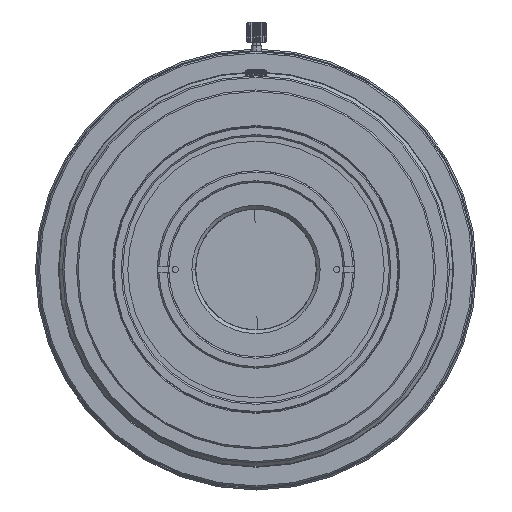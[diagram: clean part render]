
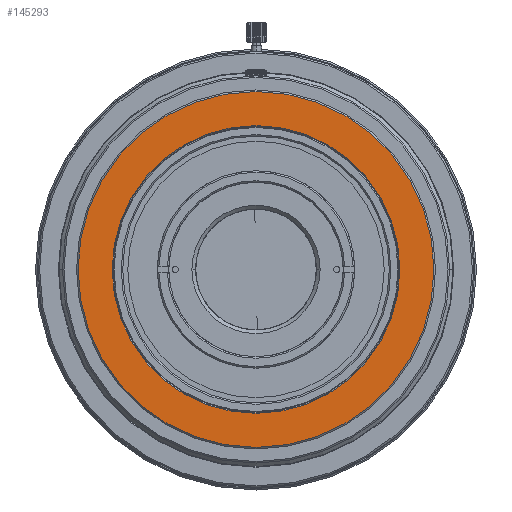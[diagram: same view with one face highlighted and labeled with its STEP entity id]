
A CAD part, front view. The second image highlights one B-rep face of the part: STEP entity #145293.
In plain terms, the highlighted planar face has unit normal (0, -1, 0).
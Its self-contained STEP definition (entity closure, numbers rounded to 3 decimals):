
#17492 = CARTESIAN_POINT ( 'NONE',  ( 34.7, -12.876, 0. ) ) ;
#20204 = EDGE_CURVE ( 'NONE', #72243, #93024, #22006, .T. ) ;
#20687 = VERTEX_POINT ( 'NONE', #128194 ) ;
#22006 = CIRCLE ( 'NONE', #94779, 34.7 ) ;
#23019 = AXIS2_PLACEMENT_3D ( 'NONE', #77099, #44992, #170450 ) ;
#25635 = DIRECTION ( 'NONE',  ( 1., 0., 0. ) ) ;
#30205 = CARTESIAN_POINT ( 'NONE',  ( 0., -12.876, -35. ) ) ;
#30451 = ORIENTED_EDGE ( 'NONE', *, *, #104692, .T. ) ;
#32192 = CARTESIAN_POINT ( 'NONE',  ( 0., -12.876, 0. ) ) ;
#36591 = EDGE_CURVE ( 'NONE', #93024, #72243, #125585, .T. ) ;
#41631 = FACE_OUTER_BOUND ( 'NONE', #92322, .T. ) ;
#43693 = DIRECTION ( 'NONE',  ( 1., 0., 0. ) ) ;
#44992 = DIRECTION ( 'NONE',  ( 0., -1., 0. ) ) ;
#50840 = AXIS2_PLACEMENT_3D ( 'NONE', #30205, #138013, #43693 ) ;
#57384 = DIRECTION ( 'NONE',  ( 1., 0., 0. ) ) ;
#60559 = ORIENTED_EDGE ( 'NONE', *, *, #20204, .T. ) ;
#72243 = VERTEX_POINT ( 'NONE', #157812 ) ;
#73284 = CARTESIAN_POINT ( 'NONE',  ( 0., -12.876, 0. ) ) ;
#77099 = CARTESIAN_POINT ( 'NONE',  ( 0., -12.876, 0. ) ) ;
#85282 = VERTEX_POINT ( 'NONE', #178314 ) ;
#92322 = EDGE_LOOP ( 'NONE', ( #104383, #60559 ) ) ;
#93024 = VERTEX_POINT ( 'NONE', #17492 ) ;
#94779 = AXIS2_PLACEMENT_3D ( 'NONE', #32192, #189799, #126547 ) ;
#101087 = CIRCLE ( 'NONE', #107771, 28.05 ) ;
#102007 = EDGE_CURVE ( 'NONE', #85282, #20687, #101087, .T. ) ;
#104383 = ORIENTED_EDGE ( 'NONE', *, *, #36591, .T. ) ;
#104692 = EDGE_CURVE ( 'NONE', #20687, #85282, #153812, .T. ) ;
#107771 = AXIS2_PLACEMENT_3D ( 'NONE', #73284, #196748, #25635 ) ;
#125585 = CIRCLE ( 'NONE', #23019, 34.7 ) ;
#126547 = DIRECTION ( 'NONE',  ( 1., 0., 0. ) ) ;
#128194 = CARTESIAN_POINT ( 'NONE',  ( 28.05, -12.876, 0. ) ) ;
#136174 = CARTESIAN_POINT ( 'NONE',  ( 0., -12.876, 0. ) ) ;
#138013 = DIRECTION ( 'NONE',  ( 0., 1., 0. ) ) ;
#140078 = FACE_BOUND ( 'NONE', #177319, .T. ) ;
#145293 = ADVANCED_FACE ( 'NONE', ( #140078, #41631 ), #172223, .F. ) ;
#152755 = DIRECTION ( 'NONE',  ( 0., 1., 0. ) ) ;
#153812 = CIRCLE ( 'NONE', #180292, 28.05 ) ;
#157812 = CARTESIAN_POINT ( 'NONE',  ( -34.7, -12.876, 0. ) ) ;
#169144 = ORIENTED_EDGE ( 'NONE', *, *, #102007, .T. ) ;
#170450 = DIRECTION ( 'NONE',  ( 1., 0., 0. ) ) ;
#172223 = PLANE ( 'NONE',  #50840 ) ;
#177319 = EDGE_LOOP ( 'NONE', ( #169144, #30451 ) ) ;
#178314 = CARTESIAN_POINT ( 'NONE',  ( -28.05, -12.876, 0. ) ) ;
#180292 = AXIS2_PLACEMENT_3D ( 'NONE', #136174, #152755, #57384 ) ;
#189799 = DIRECTION ( 'NONE',  ( 0., -1., 0. ) ) ;
#196748 = DIRECTION ( 'NONE',  ( 0., 1., 0. ) ) ;
